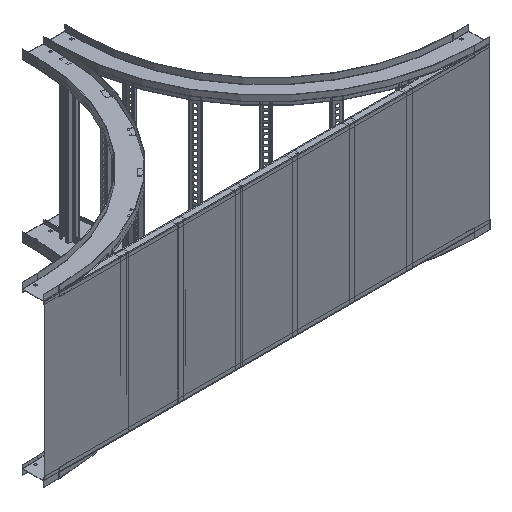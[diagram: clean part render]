
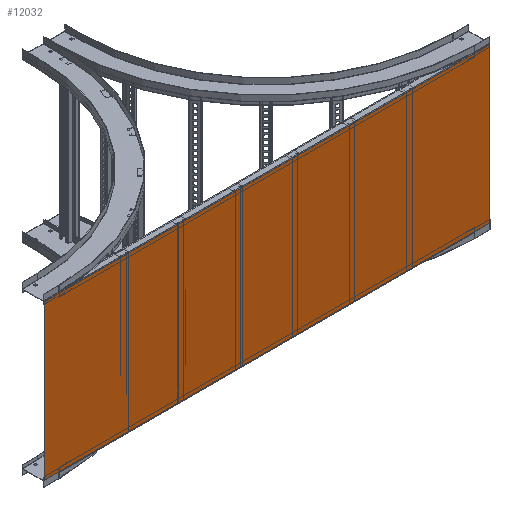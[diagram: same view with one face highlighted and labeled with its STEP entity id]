
A CAD part, isometric view. The second image highlights one B-rep face of the part: STEP entity #12032.
In plain terms, the highlighted planar face has unit normal (0, -1, 0) as drawn and (0, 1, 0) by its records, which use the part's own axes.
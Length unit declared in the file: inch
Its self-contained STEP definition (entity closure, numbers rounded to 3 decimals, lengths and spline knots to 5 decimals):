
#11953=DIRECTION('',(1.,0.,0.));
#11954=VECTOR('',#11953,29.875);
#11955=CARTESIAN_POINT('',(-14.9375,0.,43.05));
#11956=LINE('',#11955,#11954);
#11957=DIRECTION('',(0.,0.,1.));
#11958=VECTOR('',#11957,86.1);
#11959=CARTESIAN_POINT('',(-14.9375,0.,-43.05));
#11960=LINE('',#11959,#11958);
#11961=DIRECTION('',(-1.,0.,0.));
#11962=VECTOR('',#11961,29.875);
#11963=CARTESIAN_POINT('',(14.9375,0.,-43.05));
#11964=LINE('',#11963,#11962);
#11965=DIRECTION('',(0.,0.,-1.));
#11966=VECTOR('',#11965,86.1);
#11967=CARTESIAN_POINT('',(14.9375,0.,43.05));
#11968=LINE('',#11967,#11966);
#12001=CARTESIAN_POINT('',(-14.9375,0.,43.05));
#12002=CARTESIAN_POINT('',(14.9375,0.,43.05));
#12003=VERTEX_POINT('',#12001);
#12004=VERTEX_POINT('',#12002);
#12005=CARTESIAN_POINT('',(14.9375,0.,-43.05));
#12006=VERTEX_POINT('',#12005);
#12007=CARTESIAN_POINT('',(-14.9375,0.,-43.05));
#12008=VERTEX_POINT('',#12007);
#12017=CARTESIAN_POINT('',(0.,0.,0.));
#12018=DIRECTION('',(0.,1.,0.));
#12019=DIRECTION('',(1.,0.,0.));
#12020=AXIS2_PLACEMENT_3D('',#12017,#12018,#12019);
#12021=PLANE('',#12020);
#12023=ORIENTED_EDGE('',*,*,#12022,.F.);
#12025=ORIENTED_EDGE('',*,*,#12024,.F.);
#12027=ORIENTED_EDGE('',*,*,#12026,.F.);
#12029=ORIENTED_EDGE('',*,*,#12028,.F.);
#12030=EDGE_LOOP('',(#12023,#12025,#12027,#12029));
#12031=FACE_OUTER_BOUND('',#12030,.F.);
#12032=ADVANCED_FACE('',(#12031),#12021,.T.);
#12022=EDGE_CURVE('',#12003,#12004,#11956,.T.);
#12024=EDGE_CURVE('',#12008,#12003,#11960,.T.);
#12026=EDGE_CURVE('',#12006,#12008,#11964,.T.);
#12028=EDGE_CURVE('',#12004,#12006,#11968,.T.);
